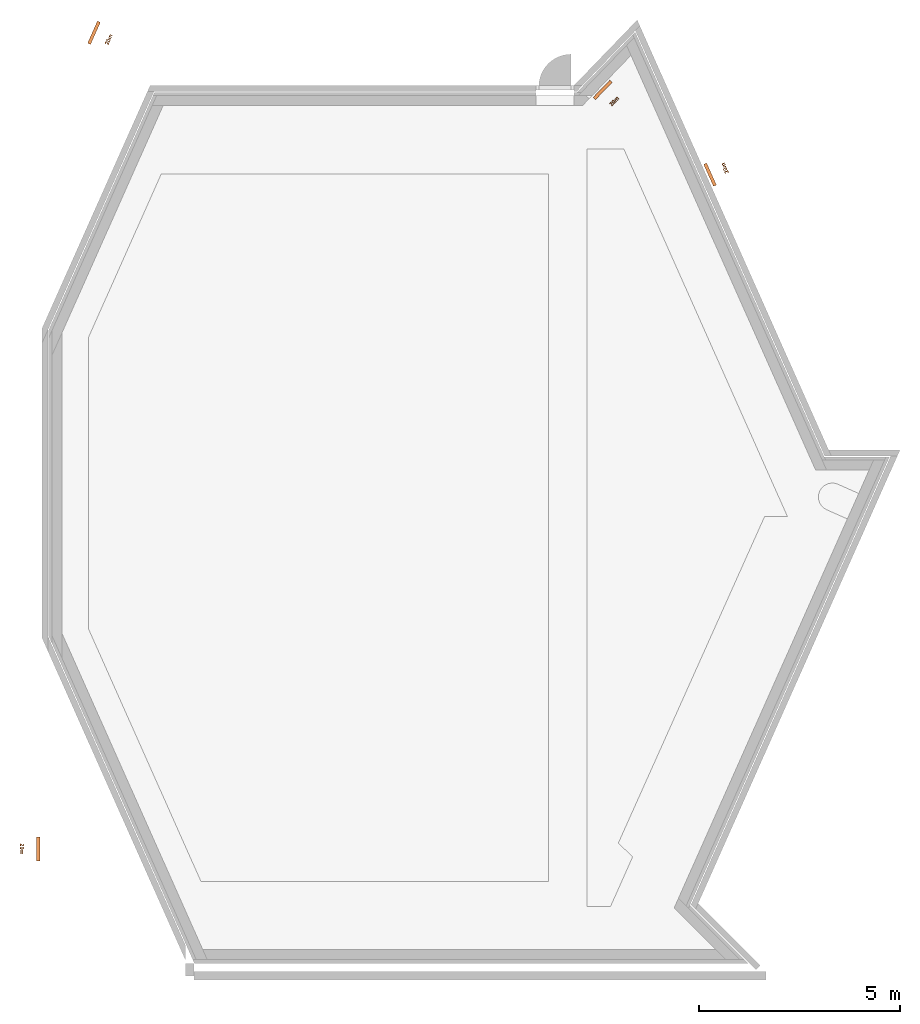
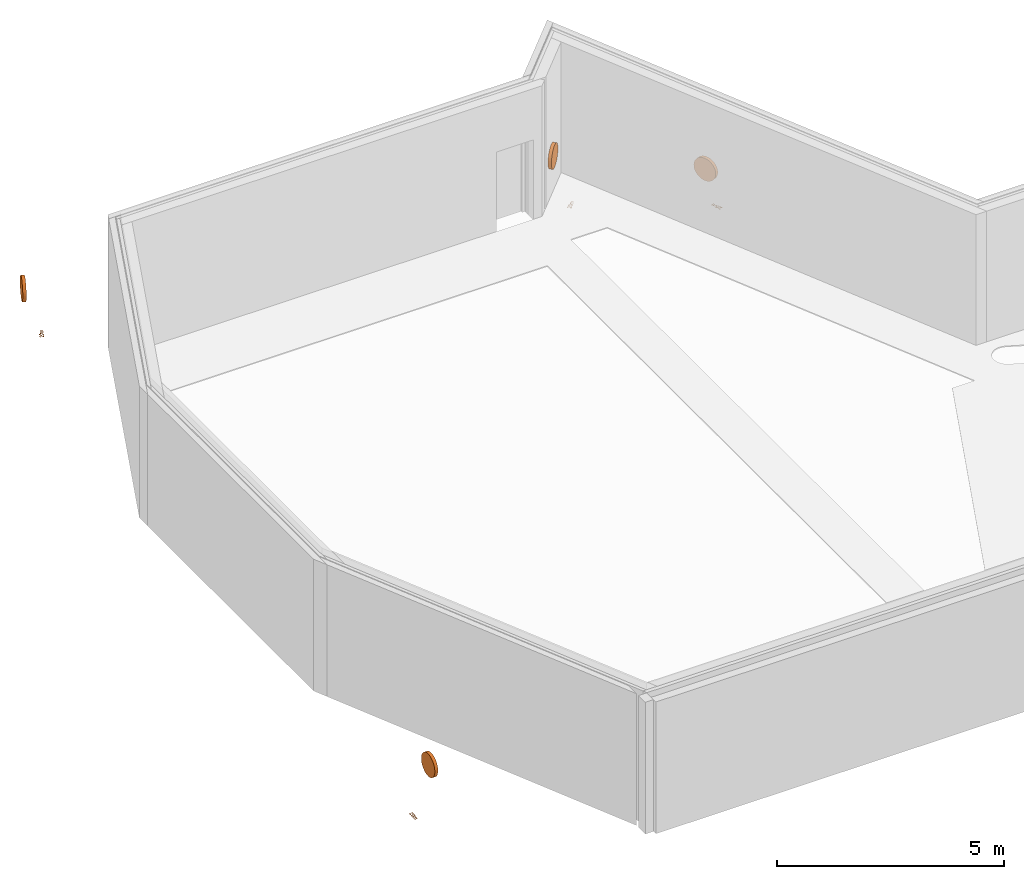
# One storey, part 4 of 4: 4 proxies.
"""IFC2X3 building model written with IfcOpenShell, lengths in millimetres."""

import ifcopenshell
import ifcopenshell.guid

model = None  # the IFC model being written
_history = None  # IfcOwnerHistory: only IFC2X3 demands one
_inside = {}  # id of a spatial element -> (the spatial element, [elements in it])
_under = {}  # id of a project, library or spatial element -> (it, [spatial elements below it])
_declared = {}  # id of a project -> (the project, [libraries it declares])
_typed = {}  # id of a type object -> (the type object, [elements of that type])
_made_of = {}  # id of a material, layer set ... -> (it, [elements and type objects made of it])


def new_model(schema):
    """Start an empty IFC model of exactly this schema.

    Asked for "IFC4X3", IfcOpenShell would pick the latest addendum, in which some entities
    have other attributes; the version numbers below select the first issue.
    IFC2X3 requires an IfcOwnerHistory on every rooted entity: one is made here for all.
    """
    global model, _history
    if schema == "IFC4X3":
        model = ifcopenshell.file(schema_version=(4, 3, 0, 0))
    else:
        model = ifcopenshell.file(schema=schema)
    _inside.clear()
    _under.clear()
    _declared.clear()
    _typed.clear()
    _made_of.clear()
    _history = None
    if model.schema == "IFC2X3":
        org = make("IfcOrganization", Name="unknown")
        user = make(
            "IfcPersonAndOrganization",
            ThePerson=make("IfcPerson", FamilyName="unknown"),
            TheOrganization=org,
        )
        app = make(
            "IfcApplication",
            ApplicationDeveloper=org,
            Version="unknown",
            ApplicationFullName="unknown",
            ApplicationIdentifier="unknown",
        )
        _history = make(
            "IfcOwnerHistory",
            OwningUser=user,
            OwningApplication=app,
            ChangeAction="ADDED",
            CreationDate=0,
        )
    return model


def make(cls, **values):
    """One entity of the class cls with the attributes given. An attribute that is None is left unset."""
    return model.create_entity(
        cls, **{name: value for name, value in values.items() if value is not None}
    )


def entity(cls, *values):
    """Any entity or typed value of the class cls, its attributes in the order of the schema. None: left unset."""
    e = model.create_entity(cls)
    for i, value in enumerate(values):
        if value is not None:
            e[i] = value
    return e


def rooted(cls, **values):
    """An entity with a GlobalId (a new one), such as an element, a storey or a relation."""
    return make(cls, GlobalId=ifcopenshell.guid.new(), OwnerHistory=_history, **values)


def si_unit(unit_type, name, prefix=None):
    """IfcSIUnit, for example si_unit("LENGTHUNIT", "METRE", prefix="MILLI")."""
    return make("IfcSIUnit", UnitType=unit_type, Prefix=prefix, Name=name)


def converted_unit(unit_type, name, factor, base, dimensions=None, offset=None):
    """IfcConversionBasedUnit, such as the inch: factor (a typed value) times the base unit."""
    return make(
        "IfcConversionBasedUnit"
        if offset is None
        else "IfcConversionBasedUnitWithOffset",
        ConversionOffset=offset,
        Dimensions=None
        if dimensions is None
        else entity("IfcDimensionalExponents", *dimensions),
        UnitType=unit_type,
        Name=name,
        ConversionFactor=make(
            "IfcMeasureWithUnit", ValueComponent=factor, UnitComponent=base
        ),
    )


def derived_unit(unit_type, elements):
    """IfcDerivedUnit: a product of units, each with its exponent."""
    return make(
        "IfcDerivedUnit",
        Elements=[
            make("IfcDerivedUnitElement", Unit=unit, Exponent=power)
            for unit, power in elements
        ],
        UnitType=unit_type,
    )


def assignment(units):
    """IfcUnitAssignment: the units of a project."""
    return None if units is None else make("IfcUnitAssignment", Units=units)


def point(xyz):
    """IfcCartesianPoint."""
    return None if xyz is None else make("IfcCartesianPoint", Coordinates=xyz)


def direction(xyz):
    """IfcDirection."""
    return None if xyz is None else make("IfcDirection", DirectionRatios=xyz)


def frame(location, z_axis=None, x_axis=None):
    """IfcAxis2Placement3D, a coordinate frame: its origin and axes. An axis left out is left unset."""
    return make(
        "IfcAxis2Placement3D",
        Location=point(location),
        Axis=direction(z_axis),
        RefDirection=direction(x_axis),
    )


def origin():
    """The frame at (0, 0, 0) with its axes left unset."""
    return frame((0.0, 0.0, 0.0))


def place(relative_to, where):
    """IfcLocalPlacement: puts the frame where relative to a parent placement (None: the world)."""
    return make(
        "IfcLocalPlacement", PlacementRelTo=relative_to, RelativePlacement=where
    )


def context(
    kind, dimensions, precision=None, world=None, true_north=None, identifier=None
):
    """IfcGeometricRepresentationContext, for example the 3D "Model" context."""
    return make(
        "IfcGeometricRepresentationContext",
        ContextIdentifier=identifier,
        ContextType=kind,
        CoordinateSpaceDimension=dimensions,
        Precision=precision,
        WorldCoordinateSystem=world,
        TrueNorth=true_north,
    )


def subcontext(parent, identifier, kind, view, scale=None):
    """IfcGeometricRepresentationSubContext, for example "Body" below "Model"."""
    return make(
        "IfcGeometricRepresentationSubContext",
        ContextIdentifier=identifier,
        ContextType=kind,
        ParentContext=parent,
        TargetScale=scale,
        TargetView=view,
    )


def project(units=None, contexts=None):
    """IfcProject with its units and contexts."""
    return rooted(
        "IfcProject",
        Name="project",
        RepresentationContexts=contexts,
        UnitsInContext=assignment(units),
    )


def spatial(cls, under=None, at=None, **own):
    """A site, building, storey or space (cls), placed at a placement, below another one or the project."""
    s = rooted(cls, ObjectPlacement=at, **own)
    if under is not None:
        _under.setdefault(under.id(), (under, []))[1].append(s)
    return s


def faces_of(points, faces, orient=None, outer=None):
    """IfcFace entities. A face is a list of loops; a loop is a list of indices into points, from 0.

    orient and outer hold one flag for each loop. By default every Orientation is true, the
    first loop of a face is its IfcFaceOuterBound and the others are IfcFaceBound.
    """
    made = []
    for i, loops in enumerate(faces):
        bounds = []
        for j, loop in enumerate(loops):
            is_outer = j == 0 if outer is None else outer[i][j]
            bounds.append(
                make(
                    "IfcFaceOuterBound" if is_outer else "IfcFaceBound",
                    Bound=make("IfcPolyLoop", Polygon=[points[k] for k in loop]),
                    Orientation=True if orient is None else orient[i][j],
                )
            )
        made.append(make("IfcFace", Bounds=bounds))
    return made


def face_set(faces, orient=None, outer=None):
    """The faces of one IfcConnectedFaceSet. surface_model builds it on its shared points."""
    return ("IfcConnectedFaceSet", faces, orient, outer)


def surface_model(cls, points, shells):
    """IfcFaceBasedSurfaceModel or IfcShellBasedSurfaceModel (cls): surfaces that need not close."""
    shared = [point(p) for p in points]
    made = [make(c, CfsFaces=faces_of(shared, fs, o, b)) for c, fs, o, b in shells]
    if cls == "IfcFaceBasedSurfaceModel":
        return make(cls, FbsmFaces=made)
    return make(cls, SbsmBoundary=made)


def shape(context_of_items, identifier, shape_type, items):
    """IfcShapeRepresentation: the items that make up one representation, for example the "Body"."""
    return make(
        "IfcShapeRepresentation",
        ContextOfItems=context_of_items,
        RepresentationIdentifier=identifier,
        RepresentationType=shape_type,
        Items=items,
    )


def source(mapping_origin, context_of_items, identifier, shape_type, items):
    """IfcRepresentationMap: a shape defined once, which mapped items show again and again."""
    return make(
        "IfcRepresentationMap",
        MappingOrigin=mapping_origin,
        MappedRepresentation=shape(context_of_items, identifier, shape_type, items),
    )


def transform(
    local_origin,
    x_axis=None,
    y_axis=None,
    z_axis=None,
    scale=None,
    scale2=None,
    scale3=None,
    uniform=True,
):
    """IfcCartesianTransformationOperator3D, or its non-uniform kind. x_axis, y_axis, z_axis: its Axis1, 2, 3."""
    if uniform:
        return make(
            "IfcCartesianTransformationOperator3D",
            Axis1=direction(x_axis),
            Axis2=direction(y_axis),
            LocalOrigin=point(local_origin),
            Scale=scale,
            Axis3=direction(z_axis),
        )
    return make(
        "IfcCartesianTransformationOperator3DnonUniform",
        Axis1=direction(x_axis),
        Axis2=direction(y_axis),
        LocalOrigin=point(local_origin),
        Scale=scale,
        Axis3=direction(z_axis),
        Scale2=scale2,
        Scale3=scale3,
    )


def mapped(mapping_source, mapping_target):
    """IfcMappedItem: shows the shape of a source again, moved by a transform."""
    return make(
        "IfcMappedItem", MappingSource=mapping_source, MappingTarget=mapping_target
    )


def material(Name=None, Category=None):
    """IfcMaterial."""
    return make("IfcMaterial", Name=Name, Category=Category)


def made_of(thing, what):
    """Note that an element or type object is made of a material, layer set ...; save() writes the relation."""
    if what is not None:
        _made_of.setdefault(what.id(), (what, []))[1].append(thing)
    return thing


def type_object(cls, material=None, **own):
    """A type object (cls), such as IfcWallType, which elements share."""
    return made_of(rooted(cls, **own), material)


def type_shapes(of_type, sources):
    """Give a type object the sources (RepresentationMaps) that its elements show as mapped items."""
    of_type.RepresentationMaps = sources


def element(
    cls,
    number,
    at=None,
    inside=None,
    cuts=None,
    type_object=None,
    material=None,
    context=None,
    identifier="Body",
    shape_type=None,
    held_by="IfcProductDefinitionShape",
    body=None,
    shapes=None,
    **own,
):
    """One element of the class cls, such as IfcWall. Its Tag is "e" and its number.

    at: its placement. inside: the storey or other place that contains it. cuts: it is an
    opening in that element (IfcRelVoidsElement). A single representation is given by context,
    identifier, shape_type and body (its items); several are given by shapes. held_by: the class
    of the entity that holds the representations. save() writes the other relations.
    """
    e = rooted(cls, Tag="e%d" % number, ObjectPlacement=at, **own)
    if body is not None:
        shapes = [shape(context, identifier, shape_type, body)]
    if shapes is not None:
        e.Representation = make(held_by, Representations=shapes)
    if inside is not None:
        _inside.setdefault(inside.id(), (inside, []))[1].append(e)
    if cuts is not None:
        rooted(
            "IfcRelVoidsElement", RelatingBuildingElement=cuts, RelatedOpeningElement=e
        )
    if type_object is not None:
        _typed.setdefault(type_object.id(), (type_object, []))[1].append(e)
    return made_of(e, material)


def aggregate(whole, parts):
    """IfcRelAggregates: a whole, such as a stair, and the parts it consists of."""
    return rooted("IfcRelAggregates", RelatingObject=whole, RelatedObjects=parts)


def save(model, path):
    """Write the relations noted so far, then the file.

    IfcRelAggregates (storeys below a building ...), IfcRelContainedInSpatialStructure (elements
    in a storey), IfcRelDefinesByType, IfcRelAssociatesMaterial and IfcRelDeclares: one each for
    every whole, place, type object, material and project.
    """
    for whole, parts in _under.values():
        aggregate(whole, parts)
    for where, things in _inside.values():
        rooted(
            "IfcRelContainedInSpatialStructure",
            RelatedElements=things,
            RelatingStructure=where,
        )
    for kind, things in _typed.values():
        rooted("IfcRelDefinesByType", RelatedObjects=things, RelatingType=kind)
    for what, things in _made_of.values():
        rooted("IfcRelAssociatesMaterial", RelatedObjects=things, RelatingMaterial=what)
    for by, libraries in _declared.values():
        rooted("IfcRelDeclares", RelatingContext=by, RelatedDefinitions=libraries)
    model.write(path)


model = new_model("IFC2X3")

# Units and contexts
model_context = context("Model", 3, precision=0.01, world=origin(), true_north=direction((6.123031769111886e-17, 1.0)))
body_context = subcontext(model_context, "Body", "Model", "MODEL_VIEW")
ifc_project = project(units=[si_unit("LENGTHUNIT", "METRE", prefix="MILLI"), si_unit("AREAUNIT", "SQUARE_METRE"), si_unit("VOLUMEUNIT", "CUBIC_METRE"), converted_unit("PLANEANGLEUNIT", "DEGREE", entity("IfcRatioMeasure", 0.017453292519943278), si_unit("PLANEANGLEUNIT", "RADIAN"), dimensions=[0, 0, 0, 0, 0, 0, 0]), si_unit("MASSUNIT", "GRAM", prefix="KILO"), derived_unit("MASSDENSITYUNIT", [(si_unit("MASSUNIT", "GRAM", prefix="KILO"), 1), (si_unit("LENGTHUNIT", "METRE"), -3)]), derived_unit("MOMENTOFINERTIAUNIT", [(si_unit("LENGTHUNIT", "METRE"), 4)]), si_unit("TIMEUNIT", "SECOND"), si_unit("FREQUENCYUNIT", "HERTZ"), si_unit("THERMODYNAMICTEMPERATUREUNIT", "DEGREE_CELSIUS"), derived_unit("THERMALTRANSMITTANCEUNIT", [(si_unit("MASSUNIT", "GRAM", prefix="KILO"), 1), (si_unit("THERMODYNAMICTEMPERATUREUNIT", "KELVIN"), -1), (si_unit("TIMEUNIT", "SECOND"), -3)]), derived_unit("VOLUMETRICFLOWRATEUNIT", [(si_unit("LENGTHUNIT", "METRE"), 3), (si_unit("TIMEUNIT", "SECOND"), -1)]), derived_unit("MASSFLOWRATEUNIT", [(si_unit("MASSUNIT", "GRAM", prefix="KILO"), 1), (si_unit("TIMEUNIT", "SECOND"), -1)]), derived_unit("ROTATIONALFREQUENCYUNIT", [(si_unit("TIMEUNIT", "SECOND"), -1)]), si_unit("ELECTRICCURRENTUNIT", "AMPERE"), si_unit("ELECTRICVOLTAGEUNIT", "VOLT"), si_unit("POWERUNIT", "WATT"), si_unit("FORCEUNIT", "NEWTON", prefix="KILO"), si_unit("ILLUMINANCEUNIT", "LUX"), si_unit("LUMINOUSFLUXUNIT", "LUMEN"), si_unit("LUMINOUSINTENSITYUNIT", "CANDELA"), derived_unit("USERDEFINED", [(si_unit("MASSUNIT", "GRAM", prefix="KILO"), -1), (si_unit("LENGTHUNIT", "METRE"), -2), (si_unit("TIMEUNIT", "SECOND"), 3), (si_unit("LUMINOUSFLUXUNIT", "LUMEN"), 1)]), derived_unit("SOUNDPOWERUNIT", [(si_unit("MASSUNIT", "GRAM", prefix="KILO"), 1), (si_unit("LENGTHUNIT", "METRE"), 2), (si_unit("TIMEUNIT", "SECOND"), -3)]), derived_unit("SOUNDPRESSUREUNIT", [(si_unit("MASSUNIT", "GRAM", prefix="KILO"), 1), (si_unit("LENGTHUNIT", "METRE"), -1), (si_unit("TIMEUNIT", "SECOND"), -2)]), derived_unit("LINEARVELOCITYUNIT", [(si_unit("LENGTHUNIT", "METRE"), 1), (si_unit("TIMEUNIT", "SECOND"), -1)]), si_unit("PRESSUREUNIT", "PASCAL"), derived_unit("USERDEFINED", [(si_unit("LENGTHUNIT", "METRE"), -2), (si_unit("MASSUNIT", "GRAM", prefix="KILO"), 1), (si_unit("TIMEUNIT", "SECOND"), -2)]), derived_unit("LINEARFORCEUNIT", [(si_unit("MASSUNIT", "GRAM", prefix="KILO"), 1), (si_unit("LENGTHUNIT", "METRE"), 1), (si_unit("TIMEUNIT", "SECOND"), -2), (si_unit("LENGTHUNIT", "METRE"), -1)]), derived_unit("PLANARFORCEUNIT", [(si_unit("MASSUNIT", "GRAM", prefix="KILO"), 1), (si_unit("LENGTHUNIT", "METRE"), 1), (si_unit("TIMEUNIT", "SECOND"), -2), (si_unit("LENGTHUNIT", "METRE"), -2)])], contexts=[model_context])

# Site, building, storey
site_placement = place(None, frame((-10000.0, -10000.0, 0.0)))
site = spatial("IfcSite", under=ifc_project, at=site_placement, Name="Default", CompositionType="ELEMENT")
building_placement = place(site_placement, origin())
building = spatial("IfcBuilding", under=site, at=building_placement, CompositionType="ELEMENT")
storey_placement = place(building_placement, frame((0.0, 0.0, 12600.0)))
storey = spatial("IfcBuildingStorey", under=building, at=storey_placement, Name="03 3e verdieping", CompositionType="ELEMENT", Elevation=12600.0)

# Proxies
ifc_material = material(Name="<Unnamed>")
building_element_proxy_type = type_object("IfcBuildingElementProxyType", Name="NLRS_53_GM_brandslanghaspel opbouw_ags:20 meter", PredefinedType="NOTDEFINED", material=ifc_material)
shared_shape = source(origin(), body_context, "Body", "SurfaceModel", [
    surface_model("IfcFaceBasedSurfaceModel", [(229.7810715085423, 21.05297174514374, 0.0), (193.57097226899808, 21.05297174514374, 0.0), (197.21475584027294, 26.366822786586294, 0.0), (208.31058289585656, 37.42469376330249, 0.0), (220.3932680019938, 50.17793626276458, 0.0), (227.5290108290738, 62.956482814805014, 0.0), (229.7810715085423, 75.81094152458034, 0.0), (227.7251172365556, 86.70749916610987, 0.0), (221.55725442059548, 95.661970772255, 0.0), (211.78989012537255, 101.64954221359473, 0.0), (198.9354314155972, 103.64539936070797, 0.0), (186.897028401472, 101.86462666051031, 0.0), (177.04742593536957, 96.52230855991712, 0.0), (170.06350742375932, 87.08705995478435, 0.0), (166.62215627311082, 73.02749574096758, 0.0), (186.0556686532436, 71.25621206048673, 0.0), (189.8006684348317, 82.45325532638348, 0.0), (198.50526252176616, 85.8313463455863, 0.0), (207.19720458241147, 82.40264722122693, 0.0), (210.34755912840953, 72.57202279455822, 0.0), (206.60255934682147, 60.88155050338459, 0.0), (191.57195211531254, 44.58574064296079, 0.0), (171.20218978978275, 20.68606298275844, 0.0), (165.00269690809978, 1.6194593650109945, 0.0), (229.7810715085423, 1.6194593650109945, 0.0), (275.1259337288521, 103.64539936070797, 0.0), (262.2271929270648, 101.05173397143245, 0.0), (252.5294147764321, 93.2707378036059, 0.0), (245.18491351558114, 76.65230127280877, 0.0), (242.73674642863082, 51.99982804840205, 0.0), (244.96666606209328, 27.233486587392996, 0.0), (251.65642496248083, 11.386823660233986, 0.0), (261.98364142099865, 2.8467059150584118, 0.0), (275.1259337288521, 0.0, 0.0), (288.0246745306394, 2.5936653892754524, 0.0), (297.72245268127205, 10.374661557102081, 0.0), (305.066953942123, 27.031054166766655, 0.0), (307.5151210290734, 51.79739562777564, 0.0), (305.0796059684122, 76.5637370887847, 0.0), (297.7730607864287, 93.1189134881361, 0.0), (288.0373265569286, 101.013777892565, 0.0), (275.1259337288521, 85.8313463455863, 0.0), (281.5658151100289, 83.69315390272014, 0.0), (286.23441281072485, 75.17834021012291, 0.0), (288.0816086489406, 51.79739562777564, 0.0), (286.00667633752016, 27.632025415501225, 0.0), (281.60377118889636, 19.952245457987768, 0.0), (275.1259337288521, 17.814053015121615, 0.0), (268.6860523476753, 19.926941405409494, 0.0), (264.01745464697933, 28.403799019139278, 0.0), (262.1702588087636, 51.79739562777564, 0.0), (264.245191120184, 76.01337394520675, 0.0), (268.6480962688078, 83.69315390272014, 0.0), (322.0902553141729, 76.11459015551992, 0.0), (322.0902553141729, 1.6194593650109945, 0.0), (341.5237676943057, 1.6194593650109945, 0.0), (341.5237676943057, 38.0825991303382, 0.0), (343.04201084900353, 53.556027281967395, 0.0), (348.0522132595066, 60.69177010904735, 0.0), (355.92177361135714, 63.15891523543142, 0.0), (361.67844557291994, 61.602716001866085, 0.0), (364.80349606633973, 56.870858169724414, 0.0), (365.81565816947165, 42.73854480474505, 0.0), (365.81565816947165, 1.6194593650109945, 0.0), (385.2491705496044, 1.6194593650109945, 0.0), (385.2491705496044, 37.65243023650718, 0.0), (386.80536978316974, 53.163814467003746, 0.0), (391.8914843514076, 60.61585795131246, 0.0), (399.4194399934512, 63.15891523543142, 0.0), (407.56734492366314, 58.907834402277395, 0.0), (409.5410610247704, 44.509828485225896, 0.0), (409.5410610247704, 1.6194593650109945, 0.0), (428.97457340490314, 1.6194593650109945, 0.0), (428.97457340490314, 49.216382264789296, 0.0), (427.0008573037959, 64.6265502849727, 0.0), (418.70112805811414, 74.40656660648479, 0.0), (405.1634599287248, 77.73404952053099, 0.0), (393.30851129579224, 74.88734360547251, 0.0), (382.97180581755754, 66.27131370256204, 0.0), (374.88716101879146, 74.88734360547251, 0.0), (363.25994885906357, 77.73404952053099, 0.0), (351.525194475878, 74.83673550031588, 0.0), (341.5237676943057, 66.1447934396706, 0.0), (341.5237676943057, 76.11459015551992, 0.0), (1.5952722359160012, 414.42866249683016, 1250.0), (7.359688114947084, 414.42866249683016, 1308.5270966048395), (24.431412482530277, 414.42866249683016, 1364.8050297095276), (52.15438854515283, 414.42866249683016, 1416.6710699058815), (89.46323787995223, 414.42866249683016, 1462.1320343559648), (134.92420233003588, 414.42866249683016, 1499.440883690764), (186.79024252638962, 414.42866249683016, 1527.1638597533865), (243.0681756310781, 414.42866249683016, 1544.2355841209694), (301.5952722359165, 414.42866249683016, 1550.0), (360.1223688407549, 414.42866249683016, 1544.2355841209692), (416.4003019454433, 414.42866249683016, 1527.1638597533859), (468.26634214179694, 414.42866249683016, 1499.4408836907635), (513.7273065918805, 414.42866249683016, 1462.1320343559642), (551.0361559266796, 414.42866249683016, 1416.6710699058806), (578.7591319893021, 414.42866249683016, 1364.805029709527), (595.8308563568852, 414.42866249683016, 1308.5270966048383), (601.5952722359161, 414.42866249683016, 1250.0), (595.8308563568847, 414.42866249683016, 1191.4729033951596), (578.7591319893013, 414.42866249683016, 1135.1949702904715), (551.0361559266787, 414.42866249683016, 1083.328930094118), (513.7273065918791, 414.42866249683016, 1037.8679656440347), (468.26634214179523, 414.42866249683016, 1000.5591163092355), (416.4003019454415, 414.42866249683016, 972.8361402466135), (360.1223688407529, 414.42866249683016, 955.7644158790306), (301.59527223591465, 414.42866249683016, 950.0), (243.06817563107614, 414.42866249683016, 955.7644158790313), (186.79024252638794, 414.42866249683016, 972.8361402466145), (134.92420233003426, 414.42866249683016, 1000.5591163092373), (89.46323787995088, 414.42866249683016, 1037.8679656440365), (52.15438854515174, 414.42866249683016, 1083.3289300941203), (24.43141248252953, 414.42866249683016, 1135.1949702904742), (7.359688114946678, 414.42866249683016, 1191.4729033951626), (1.5952722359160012, 494.42866249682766, 1250.0), (7.359688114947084, 494.42866249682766, 1308.5270966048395), (24.431412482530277, 494.42866249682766, 1364.8050297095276), (52.15438854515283, 494.42866249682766, 1416.6710699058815), (89.46323787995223, 494.42866249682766, 1462.1320343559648), (134.92420233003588, 494.42866249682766, 1499.440883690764), (186.79024252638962, 494.42866249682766, 1527.1638597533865), (243.0681756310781, 494.42866249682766, 1544.2355841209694), (301.5952722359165, 494.42866249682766, 1550.0), (360.1223688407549, 494.42866249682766, 1544.2355841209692), (416.4003019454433, 494.42866249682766, 1527.1638597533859), (468.26634214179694, 494.42866249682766, 1499.4408836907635), (513.7273065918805, 494.42866249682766, 1462.1320343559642), (551.0361559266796, 494.42866249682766, 1416.6710699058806), (578.7591319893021, 494.42866249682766, 1364.805029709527), (595.8308563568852, 494.42866249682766, 1308.5270966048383), (601.5952722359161, 494.42866249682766, 1250.0), (595.8308563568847, 494.42866249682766, 1191.4729033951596), (578.7591319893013, 494.42866249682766, 1135.1949702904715), (551.0361559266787, 494.42866249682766, 1083.328930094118), (513.7273065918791, 494.42866249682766, 1037.8679656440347), (468.26634214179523, 494.42866249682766, 1000.5591163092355), (416.4003019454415, 494.42866249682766, 972.8361402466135), (360.1223688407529, 494.42866249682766, 955.7644158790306), (301.59527223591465, 494.42866249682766, 950.0), (243.06817563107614, 494.42866249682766, 955.7644158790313), (186.79024252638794, 494.42866249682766, 972.8361402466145), (134.92420233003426, 494.42866249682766, 1000.5591163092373), (89.46323787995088, 494.42866249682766, 1037.8679656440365), (52.15438854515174, 494.42866249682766, 1083.3289300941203), (24.43141248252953, 494.42866249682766, 1135.1949702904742), (7.359688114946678, 494.42866249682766, 1191.4729033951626)], [face_set([[[0, 1, 2, 3, 4, 5, 6, 7, 8, 9, 10, 11, 12, 13, 14, 15, 16, 17, 18, 19, 20, 21, 22, 23, 24]], [[25, 26, 27, 28, 29, 30, 31, 32, 33, 34, 35, 36, 37, 38, 39, 40], [41, 42, 43, 44, 45, 46, 47, 48, 49, 50, 51, 52]], [[53, 54, 55, 56, 57, 58, 59, 60, 61, 62, 63, 64, 65, 66, 67, 68, 69, 70, 71, 72, 73, 74, 75, 76, 77, 78, 79, 80, 81, 82, 83]]]), face_set([[[84, 85, 86, 87, 88, 89, 90, 91, 92, 93, 94, 95, 96, 97, 98, 99, 100, 101, 102, 103, 104, 105, 106, 107, 108, 109, 110, 111, 112, 113, 114, 115]], [[116, 117, 118, 119, 120, 121, 122, 123, 124, 125, 126, 127, 128, 129, 130, 131, 132, 133, 134, 135, 136, 137, 138, 139, 140, 141, 142, 143, 144, 145, 146, 147]], [[116, 147, 115, 84]], [[147, 146, 114, 115]], [[146, 145, 113, 114]], [[144, 143, 111, 112]], [[143, 142, 110, 111]], [[145, 144, 112, 113]], [[142, 141, 109, 110]], [[140, 108, 109, 141]], [[106, 138, 137, 105]], [[107, 139, 138, 106]], [[105, 137, 136, 104]], [[102, 134, 133, 101]], [[103, 135, 134, 102]], [[104, 136, 135, 103]], [[101, 133, 132, 100]], [[107, 108, 140, 139]], [[132, 131, 99, 100]], [[131, 130, 98, 99]], [[130, 129, 97, 98]], [[128, 127, 95, 96]], [[127, 126, 94, 95]], [[129, 128, 96, 97]], [[126, 125, 93, 94]], [[124, 92, 93, 125]], [[90, 122, 121, 89]], [[91, 123, 122, 90]], [[89, 121, 120, 88]], [[86, 118, 117, 85]], [[87, 119, 118, 86]], [[88, 120, 119, 87]], [[85, 117, 116, 84]], [[91, 92, 124, 123]]])]),
])
type_shapes(building_element_proxy_type, [shared_shape])
for number, where, z_axis, x_axis, name in (
    (1, (42462.887056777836, 47341.476653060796, 0.0), (0.0, 0.0, 1.0), (-0.40673664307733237, 0.9135454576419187, 0.0), "NLRS_53_GM_brandslanghaspel opbouw_ags:20 meter"),
    (2, (26867.202865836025, 50507.96872125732, 0.0), (0.0, 0.0, 1.0), (0.4074479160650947, 0.9132284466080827, 0.0), "NLRS_53_GM_brandslanghaspel opbouw_ags:20 meter"),
):
    element("IfcBuildingElementProxy", number, at=place(storey_placement, frame(where, z_axis=z_axis, x_axis=x_axis)), inside=storey, type_object=building_element_proxy_type, material=ifc_material, Name=name, ObjectType="NLRS_53_GM_brandslanghaspel opbouw_ags:20 meter", context=body_context, shape_type="MappedRepresentation", body=[
        mapped(shared_shape, transform((0.0, 0.0, 0.0), scale=1.0)),
    ])

# Space
space_placement = place(storey_placement, origin())
space = spatial("IfcSpace", under=storey, at=space_placement, Name="3.13", CompositionType="ELEMENT", InteriorOrExteriorSpace="INTERNAL")

# Proxies
proxy_1_placement = place(space_placement, frame((39367.23433101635, 49011.487104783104, 0.0), z_axis=(0.0, 0.0, 1.0), x_axis=(0.6943722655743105, 0.7196159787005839, 0.0)))
element("IfcBuildingElementProxy", 3, at=proxy_1_placement, inside=space, type_object=building_element_proxy_type, material=ifc_material, Name="NLRS_53_GM_brandslanghaspel opbouw_ags:20 meter", ObjectType="NLRS_53_GM_brandslanghaspel opbouw_ags:20 meter", context=body_context, shape_type="MappedRepresentation", body=[
    mapped(shared_shape, transform((0.0, 0.0, 0.0), scale=1.0)),
])
proxy_2_placement = place(storey_placement, frame((24731.345524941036, 30927.834602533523, 0.0), z_axis=(0.0, 0.0, 1.0), x_axis=(0.0, -1.0, 0.0)))
element("IfcBuildingElementProxy", 4, at=proxy_2_placement, inside=storey, type_object=building_element_proxy_type, material=ifc_material, Name="NLRS_53_GM_brandslanghaspel opbouw_ags:20 meter", ObjectType="NLRS_53_GM_brandslanghaspel opbouw_ags:20 meter", context=body_context, shape_type="MappedRepresentation", body=[
    mapped(shared_shape, transform((0.0, 0.0, 0.0), scale=1.0)),
])

save(model, "model.ifc")
